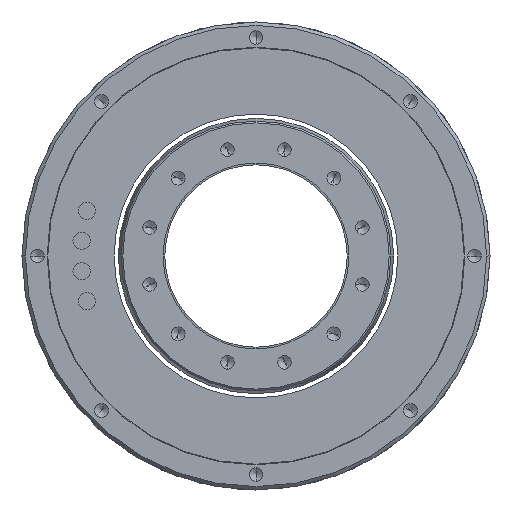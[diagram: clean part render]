
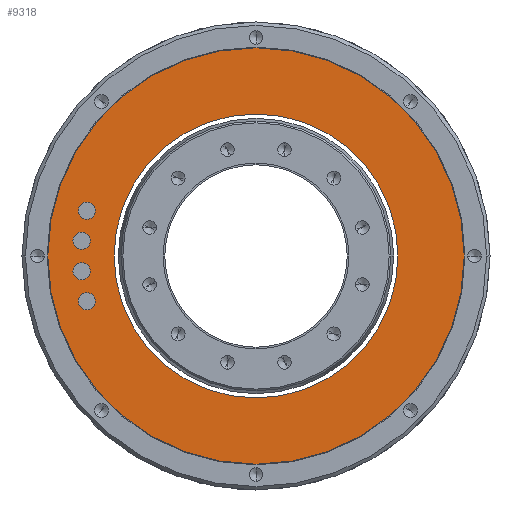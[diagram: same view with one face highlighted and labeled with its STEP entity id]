
A CAD part, left-side view. The second image highlights one B-rep face of the part: STEP entity #9318.
In plain terms, the highlighted planar face has unit normal (-1, 0, 0).
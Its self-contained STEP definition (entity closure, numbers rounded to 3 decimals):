
#8897=CARTESIAN_POINT('',(-93.,0.,0.));
#8898=DIRECTION('',(-1.,0.,0.));
#8899=DIRECTION('',(0.,1.,0.));
#8900=AXIS2_PLACEMENT_3D('',#8897,#8898,#8899);
#8902=CARTESIAN_POINT('',(-93.,0.,0.));
#8903=DIRECTION('',(1.,0.,0.));
#8904=DIRECTION('',(0.,1.,0.));
#8905=AXIS2_PLACEMENT_3D('',#8902,#8903,#8904);
#8907=CARTESIAN_POINT('',(-93.,0.,0.));
#8908=DIRECTION('',(-1.,0.,0.));
#8909=DIRECTION('',(0.,1.,0.));
#8910=AXIS2_PLACEMENT_3D('',#8907,#8908,#8909);
#8912=CARTESIAN_POINT('',(-93.,0.,0.));
#8913=DIRECTION('',(1.,0.,0.));
#8914=DIRECTION('',(0.,1.,0.));
#8915=AXIS2_PLACEMENT_3D('',#8912,#8913,#8914);
#8917=CARTESIAN_POINT('',(-93.,49.141,-13.167));
#8918=DIRECTION('',(-1.,0.,0.));
#8919=DIRECTION('',(0.,0.,1.));
#8920=AXIS2_PLACEMENT_3D('',#8917,#8918,#8919);
#8922=CARTESIAN_POINT('',(-93.,49.141,-13.167));
#8923=DIRECTION('',(-1.,0.,0.));
#8924=DIRECTION('',(0.,0.,-1.));
#8925=AXIS2_PLACEMENT_3D('',#8922,#8923,#8924);
#8927=CARTESIAN_POINT('',(-93.,49.141,13.167));
#8928=DIRECTION('',(-1.,0.,0.));
#8929=DIRECTION('',(0.,0.,1.));
#8930=AXIS2_PLACEMENT_3D('',#8927,#8928,#8929);
#8932=CARTESIAN_POINT('',(-93.,49.141,13.167));
#8933=DIRECTION('',(-1.,0.,0.));
#8934=DIRECTION('',(0.,0.,-1.));
#8935=AXIS2_PLACEMENT_3D('',#8932,#8933,#8934);
#8937=CARTESIAN_POINT('',(-93.,50.681,4.434));
#8938=DIRECTION('',(-1.,0.,0.));
#8939=DIRECTION('',(0.,0.,1.));
#8940=AXIS2_PLACEMENT_3D('',#8937,#8938,#8939);
#8942=CARTESIAN_POINT('',(-93.,50.681,4.434));
#8943=DIRECTION('',(-1.,0.,0.));
#8944=DIRECTION('',(0.,0.,-1.));
#8945=AXIS2_PLACEMENT_3D('',#8942,#8943,#8944);
#8947=CARTESIAN_POINT('',(-93.,50.681,-4.434));
#8948=DIRECTION('',(-1.,0.,0.));
#8949=DIRECTION('',(0.,0.,1.));
#8950=AXIS2_PLACEMENT_3D('',#8947,#8948,#8949);
#8952=CARTESIAN_POINT('',(-93.,50.681,-4.434));
#8953=DIRECTION('',(-1.,0.,0.));
#8954=DIRECTION('',(0.,0.,-1.));
#8955=AXIS2_PLACEMENT_3D('',#8952,#8953,#8954);
#9106=CARTESIAN_POINT('',(-93.,60.5,0.));
#9108=VERTEX_POINT('',#9106);
#9109=CARTESIAN_POINT('',(-93.,41.25,0.));
#9111=VERTEX_POINT('',#9109);
#9126=CARTESIAN_POINT('',(-93.,-60.5,0.));
#9128=VERTEX_POINT('',#9126);
#9129=CARTESIAN_POINT('',(-93.,-41.25,0.));
#9131=VERTEX_POINT('',#9129);
#9161=CARTESIAN_POINT('',(-93.,49.141,-10.667));
#9162=CARTESIAN_POINT('',(-93.,49.141,-15.667));
#9163=VERTEX_POINT('',#9161);
#9164=VERTEX_POINT('',#9162);
#9165=CARTESIAN_POINT('',(-93.,49.141,15.667));
#9166=CARTESIAN_POINT('',(-93.,49.141,10.667));
#9167=VERTEX_POINT('',#9165);
#9168=VERTEX_POINT('',#9166);
#9169=CARTESIAN_POINT('',(-93.,50.681,6.934));
#9170=CARTESIAN_POINT('',(-93.,50.681,1.934));
#9171=VERTEX_POINT('',#9169);
#9172=VERTEX_POINT('',#9170);
#9173=CARTESIAN_POINT('',(-93.,50.681,-1.934));
#9174=CARTESIAN_POINT('',(-93.,50.681,-6.934));
#9175=VERTEX_POINT('',#9173);
#9176=VERTEX_POINT('',#9174);
#9279=CARTESIAN_POINT('',(-93.,0.,0.));
#9280=DIRECTION('',(1.,0.,0.));
#9281=DIRECTION('',(0.,-1.,0.));
#9282=AXIS2_PLACEMENT_3D('',#9279,#9280,#9281);
#9283=PLANE('',#9282);
#9285=ORIENTED_EDGE('',*,*,#9284,.F.);
#9287=ORIENTED_EDGE('',*,*,#9286,.T.);
#9288=EDGE_LOOP('',(#9285,#9287));
#9289=FACE_OUTER_BOUND('',#9288,.F.);
#9290=ORIENTED_EDGE('',*,*,#9272,.F.);
#9291=ORIENTED_EDGE('',*,*,#9261,.T.);
#9292=EDGE_LOOP('',(#9290,#9291));
#9293=FACE_BOUND('',#9292,.F.);
#9295=ORIENTED_EDGE('',*,*,#9294,.T.);
#9297=ORIENTED_EDGE('',*,*,#9296,.T.);
#9298=EDGE_LOOP('',(#9295,#9297));
#9299=FACE_BOUND('',#9298,.F.);
#9301=ORIENTED_EDGE('',*,*,#9300,.T.);
#9303=ORIENTED_EDGE('',*,*,#9302,.T.);
#9304=EDGE_LOOP('',(#9301,#9303));
#9305=FACE_BOUND('',#9304,.F.);
#9307=ORIENTED_EDGE('',*,*,#9306,.T.);
#9309=ORIENTED_EDGE('',*,*,#9308,.T.);
#9310=EDGE_LOOP('',(#9307,#9309));
#9311=FACE_BOUND('',#9310,.F.);
#9313=ORIENTED_EDGE('',*,*,#9312,.T.);
#9315=ORIENTED_EDGE('',*,*,#9314,.T.);
#9316=EDGE_LOOP('',(#9313,#9315));
#9317=FACE_BOUND('',#9316,.F.);
#9318=ADVANCED_FACE('',(#9289,#9293,#9299,#9305,#9311,#9317),#9283,.F.);
#8901=CIRCLE('',#8900,41.25);
#8906=CIRCLE('',#8905,41.25);
#8911=CIRCLE('',#8910,60.5);
#8916=CIRCLE('',#8915,60.5);
#8921=CIRCLE('',#8920,2.5);
#8926=CIRCLE('',#8925,2.5);
#8931=CIRCLE('',#8930,2.5);
#8936=CIRCLE('',#8935,2.5);
#8941=CIRCLE('',#8940,2.5);
#8946=CIRCLE('',#8945,2.5);
#8951=CIRCLE('',#8950,2.5);
#8956=CIRCLE('',#8955,2.5);
#9261=EDGE_CURVE('',#9111,#9131,#8901,.T.);
#9272=EDGE_CURVE('',#9111,#9131,#8906,.T.);
#9284=EDGE_CURVE('',#9108,#9128,#8911,.T.);
#9286=EDGE_CURVE('',#9108,#9128,#8916,.T.);
#9294=EDGE_CURVE('',#9163,#9164,#8921,.T.);
#9296=EDGE_CURVE('',#9164,#9163,#8926,.T.);
#9300=EDGE_CURVE('',#9167,#9168,#8931,.T.);
#9302=EDGE_CURVE('',#9168,#9167,#8936,.T.);
#9306=EDGE_CURVE('',#9171,#9172,#8941,.T.);
#9308=EDGE_CURVE('',#9172,#9171,#8946,.T.);
#9312=EDGE_CURVE('',#9175,#9176,#8951,.T.);
#9314=EDGE_CURVE('',#9176,#9175,#8956,.T.);
